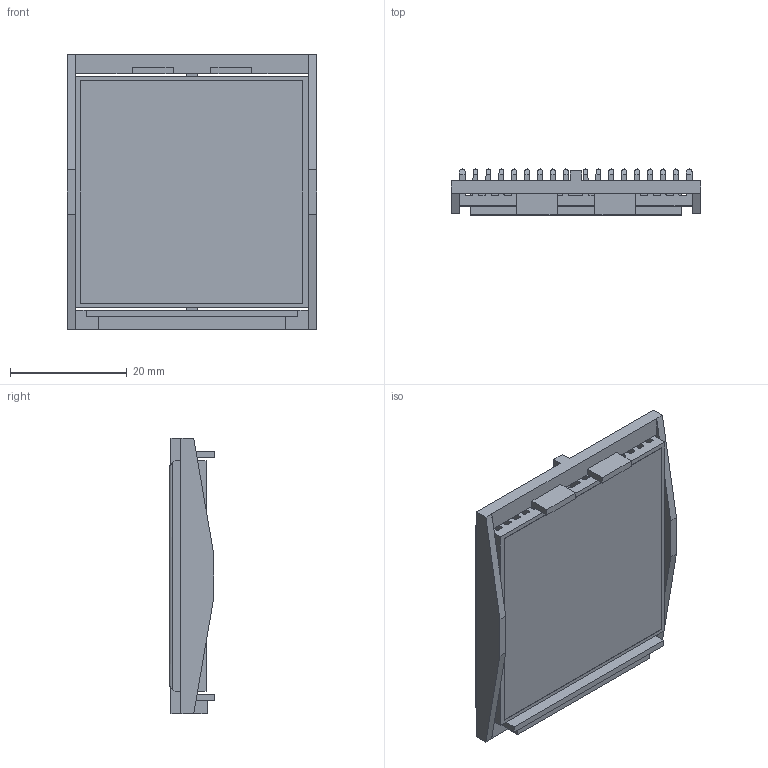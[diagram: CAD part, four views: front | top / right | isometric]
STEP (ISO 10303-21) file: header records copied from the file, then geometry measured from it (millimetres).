
FILE_DESCRIPTION (( 'STEP AP214' ), '1' );
FILE_NAME ('INL40001-6-1.7BU.STEP', '2023-03-01T17:03:20', ( '' ), ( '' ), 'SwSTEP 2.0', 'SolidWorks 2020', '' );
FILE_SCHEMA (( 'AUTOMOTIVE_DESIGN' ));
Length unit declared in the file: millimetre
Products named in the file (1): INL40001-6-1.7BU
Bounding box: 42.7 x 7.8 x 47.1 mm (x, y, z)
Volume: 7413.5 mm3; surface area: 15163.5 mm2
Topology: 3 solids, 3 shells, 198 faces, 578 edges, 384 vertices
Faces by surface type: plane 146, cylinder 52
Entity records: 8712 total; most frequent: CARTESIAN_POINT 1269, ORIENTED_EDGE 1156, DIRECTION 1008, EDGE_CURVE 578, LINE 474, VECTOR 474, VERTEX_POINT 384, AXIS2_PLACEMENT_3D 267
